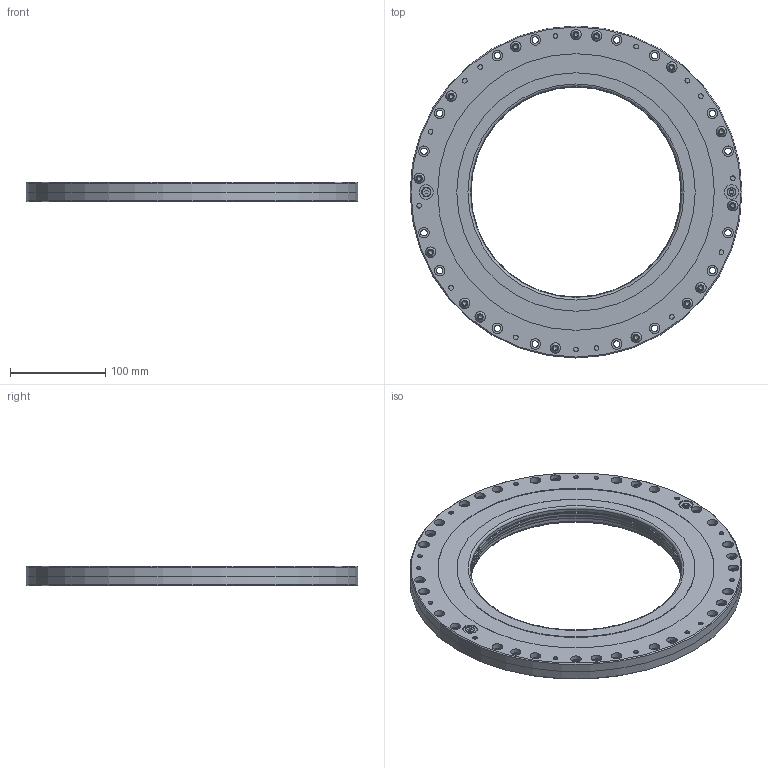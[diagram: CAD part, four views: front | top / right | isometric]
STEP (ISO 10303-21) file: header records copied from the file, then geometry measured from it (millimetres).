
FILE_DESCRIPTION(/* description */ ('Unknown'),/* implementation_level */ '2;1');
FILE_NAME(/* name */ '10020142_RotoClamp RC 220 N',/* time_stamp */ '2024-11-15T12:33:23+01:00',/* author */ ('Unknown'),/* organization */ ('Unknown'),/* preprocessor_version */ 'ST-DEVELOPER v19.4',/* originating_system */ 'Solid Edge',/* authorisation */ 'Unknown');
FILE_SCHEMA (('AUTOMOTIVE_DESIGN {1 0 10303 214 3 1 1}'));
Length unit declared in the file: millimetre
Products named in the file (7): 10020142; 34-06-0051-E001; 34-00-0030-E001; Verschlussschraube G1;8 x 4,5; Linsenkopfschraube ISO 7380 TX M6 x 12 Ph 012.9; 34-06-0064-E001; Gewindestift DIN 913 - M6x4 VA
Assembly tree (38 placements, depth 2):
  10020142
    34-06-0051-E001
    34-00-0030-E001  x2
    Verschlussschraube G1;8 x 4,5  x3
    Linsenkopfschraube ISO 7380 TX M6 x 12 Ph 012.9  x30
    34-06-0064-E001
    Gewindestift DIN 913 - M6x4 VA
Bounding box: 348 x 348 x 20.4 mm (x, y, z)
Volume: 1069489.2 mm3; surface area: 300459.3 mm2
Topology: 38 solids, 38 shells, 1643 faces, 3930 edges, 2453 vertices
Faces by surface type: cylinder 999, cone 266, plane 221, torus 127, sphere 30
Full cylindrical faces by diameter (mm): 1.5 x5, 4.917 x31, 5.6 x30, 6 x62, 6.8 x63, 7.4 x1, 8.4 x1, 8.566 x4, 9.728 x4, 10.5 x30, 11 x64, 15 x4, 220 x2, 224 x2, 250 x2, 290 x2, 348 x2
Entity records: 9921 total; most frequent: CARTESIAN_POINT 2240, DIRECTION 1192, ORIENTED_EDGE 982, FACE_BOUND 548, EDGE_LOOP 546, AXIS2_PLACEMENT_3D 545, EDGE_CURVE 491, VERTEX_POINT 389
